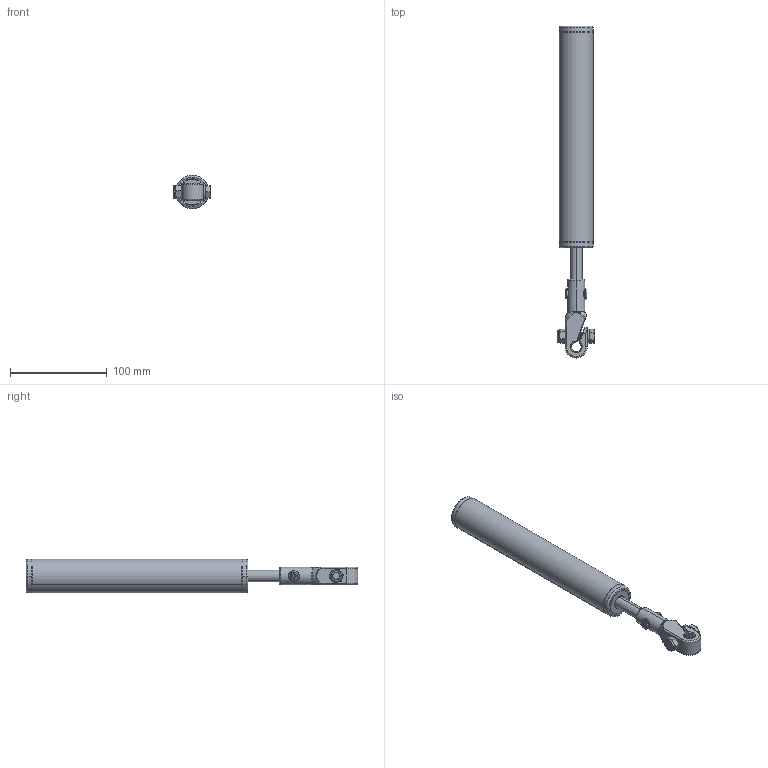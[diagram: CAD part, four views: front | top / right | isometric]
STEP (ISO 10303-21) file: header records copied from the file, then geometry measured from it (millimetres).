
FILE_DESCRIPTION (( 'STEP AP203' ), '1' );
FILE_NAME ('35mm Long Roller Sub-Assembly (STEP format).STEP', '2016-06-10T13:45:54', ( '' ), ( '' ), 'SwSTEP 2.0', 'SolidWorks 2015', '' );
FILE_SCHEMA (( 'CONFIG_CONTROL_DESIGN' ));
Length unit declared in the file: millimetre
Products named in the file (1): 35mm Long Roller Sub-Assembly (STEP format)
Bounding box: 38.4 x 344 x 35 mm (x, y, z)
Volume: 115043.9 mm3; surface area: 83531.3 mm2
Topology: 12 solids, 12 shells, 784 faces, 1841 edges, 1079 vertices
Faces by surface type: cylinder 279, torus 178, plane 141, bspline 94, cone 66, sphere 26
Entity records: 35417 total; most frequent: CARTESIAN_POINT 18021, DIRECTION 3716, ORIENTED_EDGE 3614, EDGE_CURVE 1807, AXIS2_PLACEMENT_3D 1600, VERTEX_POINT 1075, CIRCLE 909, EDGE_LOOP 842
